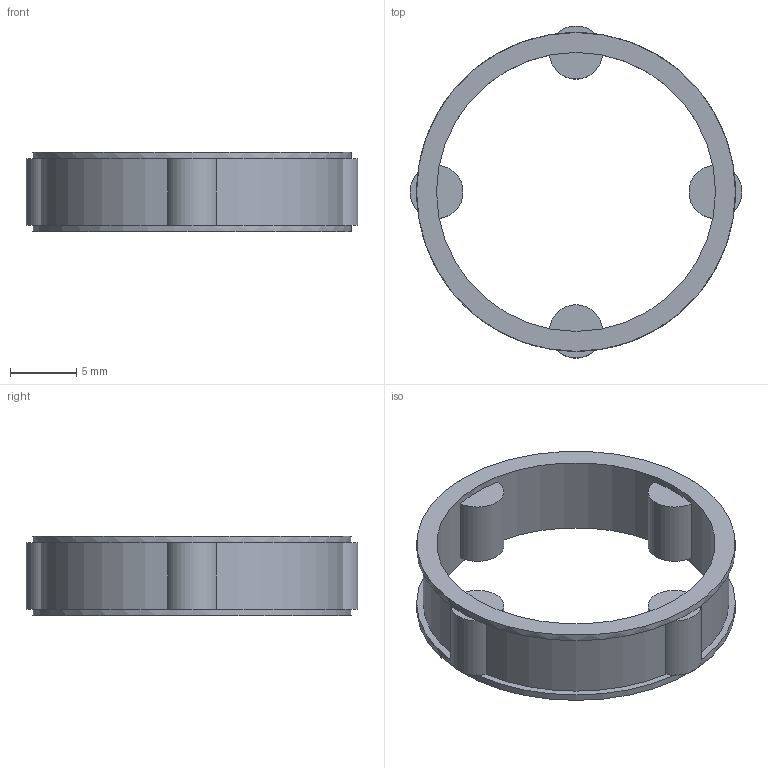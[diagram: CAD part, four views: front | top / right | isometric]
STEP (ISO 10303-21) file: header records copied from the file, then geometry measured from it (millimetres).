
FILE_DESCRIPTION(/* description */ (''),/* implementation_level */ '2;1');
FILE_NAME(/* name */ '302954 RL 425 - 4.stp',/* time_stamp */ '2016-11-10T14:47:07+01:00',/* author */ (''),/* organization */ (''),/* preprocessor_version */ 'ST-DEVELOPER v15',/* originating_system */ 'SIEMENS PLM Software NX 8.5',/* authorisation */ '');
FILE_SCHEMA (('CONFIG_CONTROL_DESIGN'));
Length unit declared in the file: millimetre
Products named in the file (1): ATE0000098_01
Bounding box: 24.98 x 24.98 x 6 mm (x, y, z)
Volume: 624.5 mm3; surface area: 1216.9 mm2
Topology: 1 solids, 1 shells, 41 faces, 92 edges, 56 vertices
Faces by surface type: plane 26, cylinder 15
Full cylindrical faces by diameter (mm): 21 x1, 24 x2
Entity records: 1198 total; most frequent: DIRECTION 236, CARTESIAN_POINT 178, ORIENTED_EDGE 168, AXIS2_PLACEMENT_3D 110, EDGE_CURVE 84, CIRCLE 68, VERTEX_POINT 52, EDGE_LOOP 50
